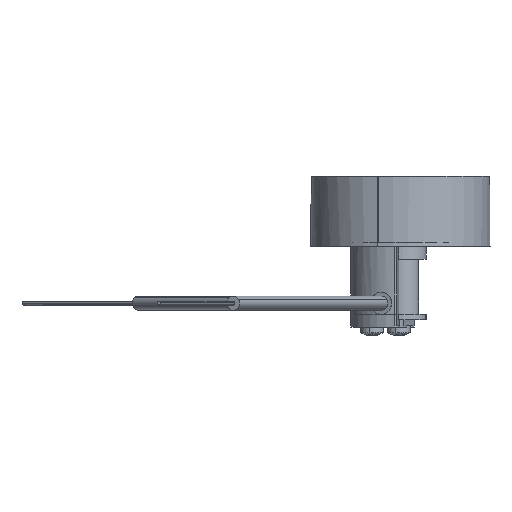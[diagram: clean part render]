
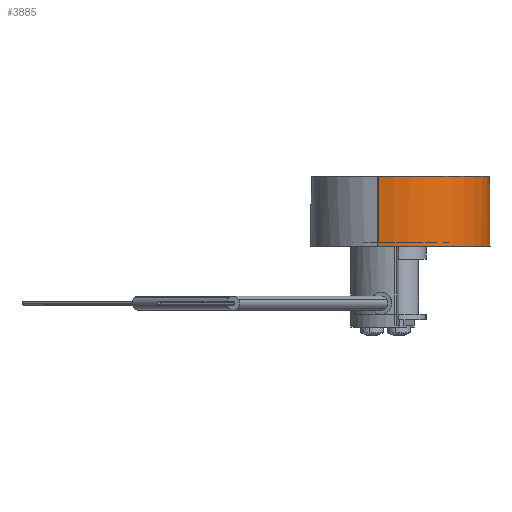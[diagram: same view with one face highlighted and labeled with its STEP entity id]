
A CAD part, left-side view. The second image highlights one B-rep face of the part: STEP entity #3885.
In plain terms, the highlighted cylindrical face has radius 24.5 mm (diameter 49 mm), a partial arc.
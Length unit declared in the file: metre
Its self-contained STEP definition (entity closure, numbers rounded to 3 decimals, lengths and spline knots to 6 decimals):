
#112 = AXIS2_PLACEMENT_3D ( 'NONE', #1646, #141, #161 ) ;
#141 = DIRECTION ( 'NONE',  ( 0., 0., 1. ) ) ;
#161 = DIRECTION ( 'NONE',  ( -1., 0., 0. ) ) ;
#326 = ORIENTED_EDGE ( 'NONE', *, *, #2629, .F. ) ;
#352 = CARTESIAN_POINT ( 'NONE',  ( 0., 0., 0.0155 ) ) ;
#480 = EDGE_CURVE ( 'NONE', #2618, #2696, #3701, .T. ) ;
#524 = ORIENTED_EDGE ( 'NONE', *, *, #996, .F. ) ;
#601 = EDGE_CURVE ( 'NONE', #3593, #3409, #3472, .T. ) ;
#602 = FACE_OUTER_BOUND ( 'NONE', #1519, .T. ) ;
#617 = VECTOR ( 'NONE', #3702, 1. ) ;
#758 = CARTESIAN_POINT ( 'NONE',  ( -0.0245, 0., 0.0192 ) ) ;
#778 = DIRECTION ( 'NONE',  ( 0., 0., -1. ) ) ;
#851 = VERTEX_POINT ( 'NONE', #3852 ) ;
#932 = EDGE_CURVE ( 'NONE', #2863, #2940, #2273, .T. ) ;
#996 = EDGE_CURVE ( 'NONE', #3409, #2863, #1892, .T. ) ;
#1094 = CIRCLE ( 'NONE', #112, 0.0245 ) ;
#1160 = ORIENTED_EDGE ( 'NONE', *, *, #601, .F. ) ;
#1266 = AXIS2_PLACEMENT_3D ( 'NONE', #3341, #3332, #1800 ) ;
#1379 = DIRECTION ( 'NONE',  ( 0., 0., -1. ) ) ;
#1405 = CARTESIAN_POINT ( 'NONE',  ( 0., 0., 0.0192 ) ) ;
#1473 = CARTESIAN_POINT ( 'NONE',  ( -0.022748, -0.009098, 0.0192 ) ) ;
#1519 = EDGE_LOOP ( 'NONE', ( #1725, #2656, #524, #1160, #326, #1705, #3813, #2099 ) ) ;
#1559 = EDGE_CURVE ( 'NONE', #2696, #2421, #1094, .T. ) ;
#1641 = VECTOR ( 'NONE', #3384, 1. ) ;
#1646 = CARTESIAN_POINT ( 'NONE',  ( 0., 0., 0. ) ) ;
#1705 = ORIENTED_EDGE ( 'NONE', *, *, #3758, .F. ) ;
#1717 = DIRECTION ( 'NONE',  ( -1., 0., 0. ) ) ;
#1725 = ORIENTED_EDGE ( 'NONE', *, *, #2062, .F. ) ;
#1800 = DIRECTION ( 'NONE',  ( -1., 0., 0. ) ) ;
#1892 = LINE ( 'NONE', #2733, #1641 ) ;
#2017 = CARTESIAN_POINT ( 'NONE',  ( -0.0245, 0., 0.0192 ) ) ;
#2040 = AXIS2_PLACEMENT_3D ( 'NONE', #352, #2153, #2165 ) ;
#2052 = CYLINDRICAL_SURFACE ( 'NONE', #3174, 0.0245 ) ;
#2062 = EDGE_CURVE ( 'NONE', #2940, #2421, #3690, .T. ) ;
#2081 = VECTOR ( 'NONE', #3533, 1. ) ;
#2099 = ORIENTED_EDGE ( 'NONE', *, *, #1559, .T. ) ;
#2153 = DIRECTION ( 'NONE',  ( 0., 0., 1. ) ) ;
#2165 = DIRECTION ( 'NONE',  ( -1., 0., 0. ) ) ;
#2189 = DIRECTION ( 'NONE',  ( -1., 0., 0. ) ) ;
#2273 = CIRCLE ( 'NONE', #1266, 0.0245 ) ;
#2332 = CARTESIAN_POINT ( 'NONE',  ( -0.024249, -0.003495, 0.0096 ) ) ;
#2367 = CARTESIAN_POINT ( 'NONE',  ( -0.022748, -0.009098, 0.0155 ) ) ;
#2402 = CARTESIAN_POINT ( 'NONE',  ( 0.0245, 0., 0.0192 ) ) ;
#2421 = VERTEX_POINT ( 'NONE', #2860 ) ;
#2430 = CARTESIAN_POINT ( 'NONE',  ( -0.024249, -0.003495, 0.0155 ) ) ;
#2618 = VERTEX_POINT ( 'NONE', #2017 ) ;
#2629 = EDGE_CURVE ( 'NONE', #851, #3593, #3182, .T. ) ;
#2656 = ORIENTED_EDGE ( 'NONE', *, *, #932, .F. ) ;
#2696 = VERTEX_POINT ( 'NONE', #3595 ) ;
#2733 = CARTESIAN_POINT ( 'NONE',  ( -0.022748, -0.009098, 0.0096 ) ) ;
#2857 = AXIS2_PLACEMENT_3D ( 'NONE', #3405, #3419, #2189 ) ;
#2860 = CARTESIAN_POINT ( 'NONE',  ( 0.0245, 0., 0. ) ) ;
#2863 = VERTEX_POINT ( 'NONE', #1473 ) ;
#2898 = VECTOR ( 'NONE', #1379, 1. ) ;
#2940 = VERTEX_POINT ( 'NONE', #2402 ) ;
#3072 = CARTESIAN_POINT ( 'NONE',  ( 0.0245, 0., 0.0192 ) ) ;
#3174 = AXIS2_PLACEMENT_3D ( 'NONE', #1405, #778, #1717 ) ;
#3182 = LINE ( 'NONE', #2332, #2081 ) ;
#3332 = DIRECTION ( 'NONE',  ( 0., 0., 1. ) ) ;
#3341 = CARTESIAN_POINT ( 'NONE',  ( 0., 0., 0.0192 ) ) ;
#3384 = DIRECTION ( 'NONE',  ( 0., 0., 1. ) ) ;
#3405 = CARTESIAN_POINT ( 'NONE',  ( 0., 0., 0.0192 ) ) ;
#3409 = VERTEX_POINT ( 'NONE', #2367 ) ;
#3419 = DIRECTION ( 'NONE',  ( 0., 0., 1. ) ) ;
#3472 = CIRCLE ( 'NONE', #2040, 0.0245 ) ;
#3533 = DIRECTION ( 'NONE',  ( 0., 0., -1. ) ) ;
#3593 = VERTEX_POINT ( 'NONE', #2430 ) ;
#3595 = CARTESIAN_POINT ( 'NONE',  ( -0.0245, 0., 0. ) ) ;
#3690 = LINE ( 'NONE', #3072, #617 ) ;
#3701 = LINE ( 'NONE', #758, #2898 ) ;
#3702 = DIRECTION ( 'NONE',  ( 0., 0., -1. ) ) ;
#3758 = EDGE_CURVE ( 'NONE', #2618, #851, #3858, .T. ) ;
#3813 = ORIENTED_EDGE ( 'NONE', *, *, #480, .T. ) ;
#3852 = CARTESIAN_POINT ( 'NONE',  ( -0.024249, -0.003495, 0.0192 ) ) ;
#3858 = CIRCLE ( 'NONE', #2857, 0.0245 ) ;
#3885 = ADVANCED_FACE ( 'NONE', ( #602 ), #2052, .T. ) ;
